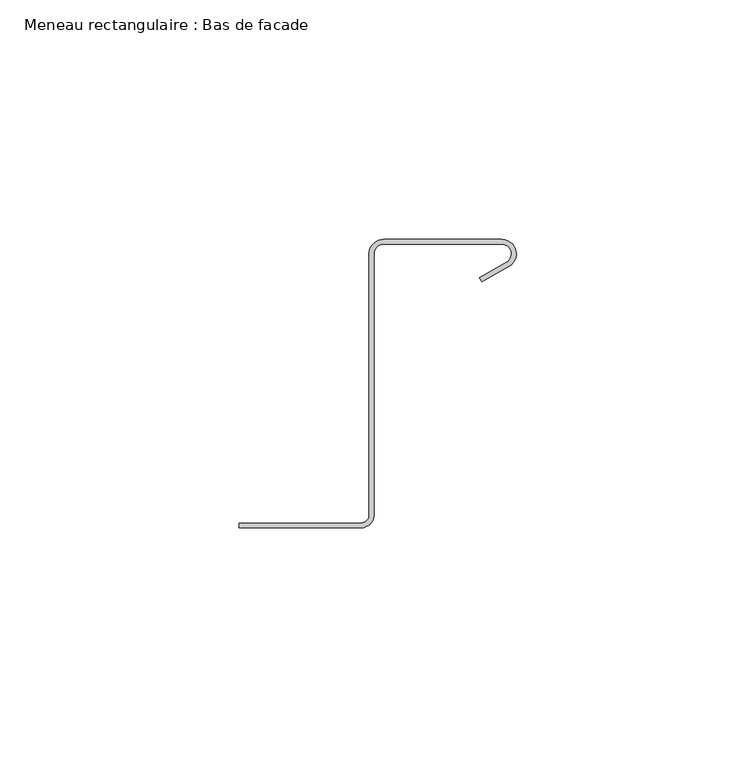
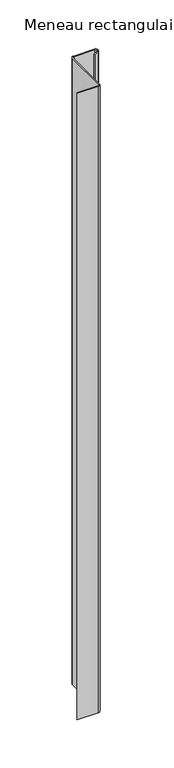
"""IFC4 building model written with IfcOpenShell, lengths in millimetres: member geometry, Meneau rectangulaire : Bas de facade."""

from ifc_helpers import new_model, si_unit, point, frame, frame_2d, origin, place, context, project, spatial, polyline, circle_curve, trimmed, segment, composite_curve, outline, extrude, source, transform, mapped, element, save


def meneau_rectangulaire_bas_de_facade_311af115(model_context):
    return source(origin(), model_context, "Body", "SweptSolid", [
        extrude(outline(composite_curve([segment(polyline([(-32.4584179, -2.9588923), (-57.8548383, -2.9588923), (-57.8548383, -1.9588923), (-32.4584179, -1.9588923)]), True, "CONTINUOUS"), segment(trimmed(circle_curve(frame_2d((-32.4584179, -0.2088923)), 1.75), [point((-32.4584179, -1.9588923))], [point((-30.7239521, -0.4415475))], True, "CARTESIAN"), True, "CONTINUOUS"), segment(polyline([(-30.7239521, -0.4415475), (-30.7239521, 54.522067)]), True, "CONTINUOUS"), segment(trimmed(circle_curve(frame_2d((-27.735368, 54.2605998)), 3.0), [point((-30.7239521, 54.522067))], [point((-27.735368, 57.2605998))], False, "CARTESIAN"), True, "CONTINUOUS"), segment(polyline([(-27.735368, 57.2605998), (-3.0, 57.2605998)]), True, "CONTINUOUS"), segment(trimmed(circle_curve(frame_2d((-3.0, 54.2605998)), 3.0), [point((-3.0, 57.2605998))], [point((-1.5, 51.6625235))], False, "CARTESIAN"), True, "CONTINUOUS"), segment(polyline([(-1.5, 51.6625235), (-7.1638061, 48.3925235), (-7.6638061, 49.258549), (-2.0, 52.528549)]), True, "CONTINUOUS"), segment(trimmed(circle_curve(frame_2d((-3.0, 54.2605998)), 2.0), [point((-2.0, 52.528549))], [point((-3.0, 56.2605998))], True, "CARTESIAN"), True, "CONTINUOUS"), segment(polyline([(-3.0, 56.2605998), (-27.735368, 56.2605998)]), True, "CONTINUOUS"), segment(trimmed(circle_curve(frame_2d((-27.735368, 54.2605998)), 2.0), [point((-27.735368, 56.2605998))], [point((-29.7143802, 54.5495817))], True, "CARTESIAN"), True, "CONTINUOUS"), segment(polyline([(-29.7143802, 54.5495817), (-29.7143802, -0.3898824)]), True, "CONTINUOUS"), segment(trimmed(circle_curve(frame_2d((-32.4584179, -0.2088923)), 2.75), [point((-29.7143802, -0.3898824))], [point((-32.4584179, -2.9588923))], False, "CARTESIAN"), True, "CONTINUOUS")], self_intersect=False)), frame((0.0, 0.0, -790.3759648), z_axis=(0.0, 0.0, 1.0), x_axis=(1.0, 0.0, 0.0)), (0.0, 0.0, 1.0), 790.3759648),
    ])


if __name__ == "__main__":
    model = new_model("IFC4")
    model_context = context("Model", 3, world=origin())
    ifc_project = project(units=[si_unit("LENGTHUNIT", "METRE", prefix="MILLI")], contexts=[model_context])
    site = spatial("IfcSite", under=ifc_project)
    building = spatial("IfcBuilding", under=site)
    placement = place(None, origin())
    meneau_rectangulaire_bas_de_facade_shape = meneau_rectangulaire_bas_de_facade_311af115(model_context)
    element("IfcMember", 1, ObjectType="Meneau rectangulaire : Bas de facade", at=placement, inside=building, context=model_context, shape_type="MappedRepresentation", body=[
        mapped(meneau_rectangulaire_bas_de_facade_shape, transform((0.0, 0.0, 0.0), x_axis=(1.0, 0.0, 0.0), y_axis=(0.0, 1.0, 0.0), z_axis=(0.0, 0.0, 1.0))),
    ])
    save(model, "model.ifc")
